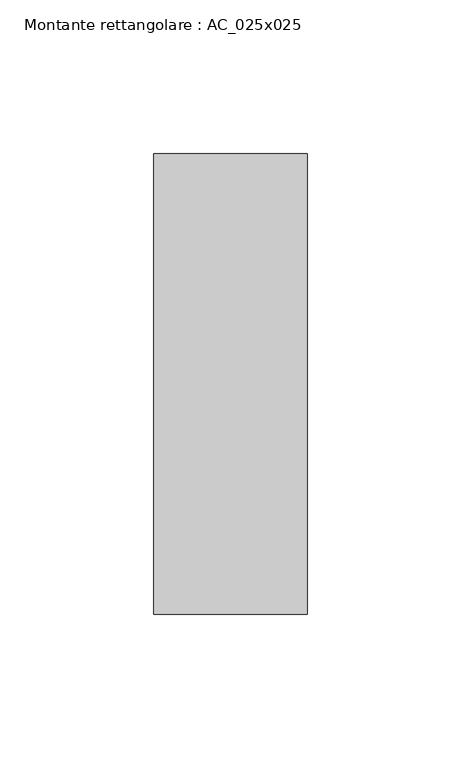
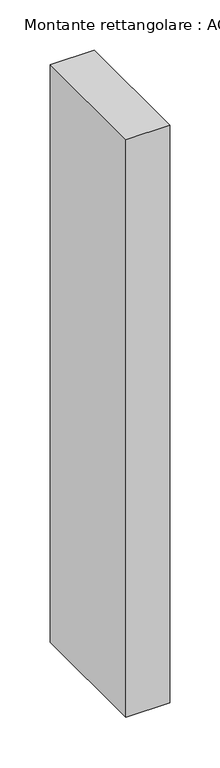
"""IFC4 building model written with IfcOpenShell, lengths in millimetres: member geometry, Montante rettangolare : AC_025x025."""

from ifc_helpers import new_model, si_unit, frame, origin, place, context, project, spatial, polyline, outline, extrude, source, transform, mapped, element, save


def montante_rettangolare_ac_025x025_ba0b5886(model_context):
    return source(origin(), model_context, "Body", "SweptSolid", [
        extrude(outline(polyline([(25.0, 75.0), (25.0, -75.0), (-25.0, -75.0), (-25.0, 75.0), (25.0, 75.0)])), frame((0.0, 0.0, -699.970898), z_axis=(0.0, 0.0, 1.0), x_axis=(1.0, 0.0, 0.0)), (0.0, 0.0, 1.0), 699.970898),
    ])


if __name__ == "__main__":
    model = new_model("IFC4")
    model_context = context("Model", 3, world=origin())
    ifc_project = project(units=[si_unit("LENGTHUNIT", "METRE", prefix="MILLI")], contexts=[model_context])
    site = spatial("IfcSite", under=ifc_project)
    building = spatial("IfcBuilding", under=site)
    placement = place(None, origin())
    montante_rettangolare_ac_025x025_shape = montante_rettangolare_ac_025x025_ba0b5886(model_context)
    element("IfcMember", 1, ObjectType="Montante rettangolare : AC_025x025", at=placement, inside=building, context=model_context, shape_type="MappedRepresentation", body=[
        mapped(montante_rettangolare_ac_025x025_shape, transform((0.0, 0.0, 0.0), x_axis=(1.0, 0.0, 0.0), y_axis=(0.0, 1.0, 0.0), z_axis=(0.0, 0.0, 1.0))),
    ])
    save(model, "model.ifc")
